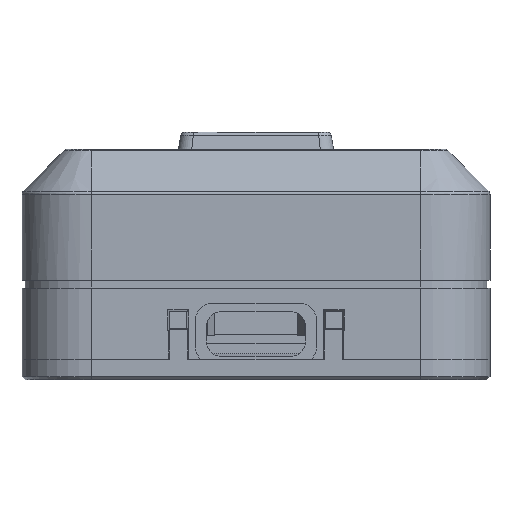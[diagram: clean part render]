
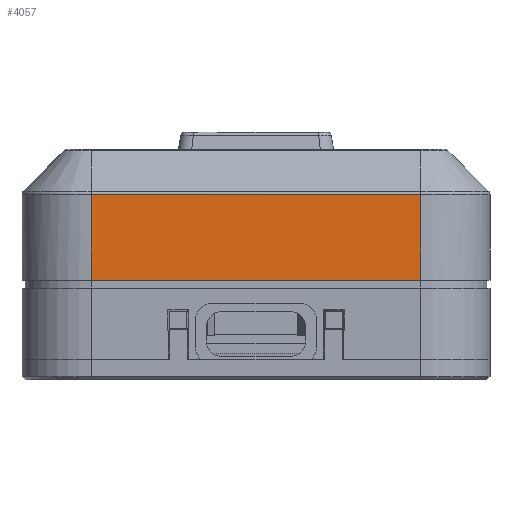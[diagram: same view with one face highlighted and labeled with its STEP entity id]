
A CAD part, front view. The second image highlights one B-rep face of the part: STEP entity #4057.
In plain terms, the highlighted planar face has unit normal (0, -1, 0).
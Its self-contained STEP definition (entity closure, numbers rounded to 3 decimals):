
#2144 = CYLINDRICAL_SURFACE('',#2145,0.5);
#2145 = AXIS2_PLACEMENT_3D('',#2146,#2147,#2148);
#2146 = CARTESIAN_POINT('',(19.,-23.5,21.393));
#2147 = DIRECTION('',(-1.,-0.,-0.));
#2148 = DIRECTION('',(0.,-1.,0.));
#3002 = VERTEX_POINT('',#3003);
#3003 = CARTESIAN_POINT('',(19.,-24.,21.393));
#3044 = CYLINDRICAL_SURFACE('',#3045,8.);
#3045 = AXIS2_PLACEMENT_3D('',#3046,#3047,#3048);
#3046 = CARTESIAN_POINT('',(19.,-16.,2.4));
#3047 = DIRECTION('',(0.,0.,1.));
#3048 = DIRECTION('',(1.,0.,-0.));
#3123 = VERTEX_POINT('',#3124);
#3124 = CARTESIAN_POINT('',(-19.,-24.,21.393));
#3148 = EDGE_CURVE('',#3002,#3123,#3149,.T.);
#3149 = SURFACE_CURVE('',#3150,(#3154,#3161),.PCURVE_S1.);
#3150 = LINE('',#3151,#3152);
#3151 = CARTESIAN_POINT('',(19.,-24.,21.393));
#3152 = VECTOR('',#3153,1.);
#3153 = DIRECTION('',(-1.,-0.,-0.));
#3154 = PCURVE('',#2144,#3155);
#3155 = DEFINITIONAL_REPRESENTATION('',(#3156),#3160);
#3156 = LINE('',#3157,#3158);
#3157 = CARTESIAN_POINT('',(0.,0.));
#3158 = VECTOR('',#3159,1.);
#3159 = DIRECTION('',(0.,1.));
#3160 = ( GEOMETRIC_REPRESENTATION_CONTEXT(2) 
PARAMETRIC_REPRESENTATION_CONTEXT() REPRESENTATION_CONTEXT('2D SPACE',''
  ) );
#3161 = PCURVE('',#3162,#3167);
#3162 = PLANE('',#3163);
#3163 = AXIS2_PLACEMENT_3D('',#3164,#3165,#3166);
#3164 = CARTESIAN_POINT('',(-27.,-24.,2.4));
#3165 = DIRECTION('',(0.,1.,0.));
#3166 = DIRECTION('',(0.,0.,1.));
#3167 = DEFINITIONAL_REPRESENTATION('',(#3168),#3172);
#3168 = LINE('',#3169,#3170);
#3169 = CARTESIAN_POINT('',(18.993,46.));
#3170 = VECTOR('',#3171,1.);
#3171 = DIRECTION('',(0.,-1.));
#3172 = ( GEOMETRIC_REPRESENTATION_CONTEXT(2) 
PARAMETRIC_REPRESENTATION_CONTEXT() REPRESENTATION_CONTEXT('2D SPACE',''
  ) );
#3289 = CYLINDRICAL_SURFACE('',#3290,8.);
#3290 = AXIS2_PLACEMENT_3D('',#3291,#3292,#3293);
#3291 = CARTESIAN_POINT('',(-19.,-16.,2.4));
#3292 = DIRECTION('',(0.,0.,1.));
#3293 = DIRECTION('',(-1.,-0.,0.));
#3961 = VERTEX_POINT('',#3962);
#3962 = CARTESIAN_POINT('',(19.,-24.,11.5));
#3977 = PLANE('',#3978);
#3978 = AXIS2_PLACEMENT_3D('',#3979,#3980,#3981);
#3979 = CARTESIAN_POINT('',(-27.5,-24.5,11.5));
#3980 = DIRECTION('',(0.,0.,1.));
#3981 = DIRECTION('',(1.,0.,0.));
#3989 = EDGE_CURVE('',#3961,#3002,#3990,.T.);
#3990 = SURFACE_CURVE('',#3991,(#3995,#4002),.PCURVE_S1.);
#3991 = LINE('',#3992,#3993);
#3992 = CARTESIAN_POINT('',(19.,-24.,2.4));
#3993 = VECTOR('',#3994,1.);
#3994 = DIRECTION('',(0.,0.,1.));
#3995 = PCURVE('',#3044,#3996);
#3996 = DEFINITIONAL_REPRESENTATION('',(#3997),#4001);
#3997 = LINE('',#3998,#3999);
#3998 = CARTESIAN_POINT('',(-1.571,0.));
#3999 = VECTOR('',#4000,1.);
#4000 = DIRECTION('',(-0.,1.));
#4001 = ( GEOMETRIC_REPRESENTATION_CONTEXT(2) 
PARAMETRIC_REPRESENTATION_CONTEXT() REPRESENTATION_CONTEXT('2D SPACE',''
  ) );
#4002 = PCURVE('',#3162,#4003);
#4003 = DEFINITIONAL_REPRESENTATION('',(#4004),#4008);
#4004 = LINE('',#4005,#4006);
#4005 = CARTESIAN_POINT('',(0.,46.));
#4006 = VECTOR('',#4007,1.);
#4007 = DIRECTION('',(1.,0.));
#4008 = ( GEOMETRIC_REPRESENTATION_CONTEXT(2) 
PARAMETRIC_REPRESENTATION_CONTEXT() REPRESENTATION_CONTEXT('2D SPACE',''
  ) );
#4057 = ADVANCED_FACE('',(#4058),#3162,.F.);
#4058 = FACE_BOUND('',#4059,.F.);
#4059 = EDGE_LOOP('',(#4060,#4081,#4102,#4103));
#4060 = ORIENTED_EDGE('',*,*,#4061,.F.);
#4061 = EDGE_CURVE('',#4062,#3961,#4064,.T.);
#4062 = VERTEX_POINT('',#4063);
#4063 = CARTESIAN_POINT('',(-19.,-24.,11.5));
#4064 = SURFACE_CURVE('',#4065,(#4069,#4075),.PCURVE_S1.);
#4065 = LINE('',#4066,#4067);
#4066 = CARTESIAN_POINT('',(-27.25,-24.,11.5));
#4067 = VECTOR('',#4068,1.);
#4068 = DIRECTION('',(1.,0.,0.));
#4069 = PCURVE('',#3162,#4070);
#4070 = DEFINITIONAL_REPRESENTATION('',(#4071),#4074);
#4071 = B_SPLINE_CURVE_WITH_KNOTS('',1,(#4072,#4073),.UNSPECIFIED.,.F.,
  .F.,(2,2),(8.25,46.25),.PIECEWISE_BEZIER_KNOTS.);
#4072 = CARTESIAN_POINT('',(9.1,8.));
#4073 = CARTESIAN_POINT('',(9.1,46.));
#4074 = ( GEOMETRIC_REPRESENTATION_CONTEXT(2) 
PARAMETRIC_REPRESENTATION_CONTEXT() REPRESENTATION_CONTEXT('2D SPACE',''
  ) );
#4075 = PCURVE('',#3977,#4076);
#4076 = DEFINITIONAL_REPRESENTATION('',(#4077),#4080);
#4077 = B_SPLINE_CURVE_WITH_KNOTS('',1,(#4078,#4079),.UNSPECIFIED.,.F.,
  .F.,(2,2),(8.25,46.25),.PIECEWISE_BEZIER_KNOTS.);
#4078 = CARTESIAN_POINT('',(8.5,0.5));
#4079 = CARTESIAN_POINT('',(46.5,0.5));
#4080 = ( GEOMETRIC_REPRESENTATION_CONTEXT(2) 
PARAMETRIC_REPRESENTATION_CONTEXT() REPRESENTATION_CONTEXT('2D SPACE',''
  ) );
#4081 = ORIENTED_EDGE('',*,*,#4082,.T.);
#4082 = EDGE_CURVE('',#4062,#3123,#4083,.T.);
#4083 = SURFACE_CURVE('',#4084,(#4088,#4095),.PCURVE_S1.);
#4084 = LINE('',#4085,#4086);
#4085 = CARTESIAN_POINT('',(-19.,-24.,2.4));
#4086 = VECTOR('',#4087,1.);
#4087 = DIRECTION('',(0.,0.,1.));
#4088 = PCURVE('',#3162,#4089);
#4089 = DEFINITIONAL_REPRESENTATION('',(#4090),#4094);
#4090 = LINE('',#4091,#4092);
#4091 = CARTESIAN_POINT('',(0.,8.));
#4092 = VECTOR('',#4093,1.);
#4093 = DIRECTION('',(1.,0.));
#4094 = ( GEOMETRIC_REPRESENTATION_CONTEXT(2) 
PARAMETRIC_REPRESENTATION_CONTEXT() REPRESENTATION_CONTEXT('2D SPACE',''
  ) );
#4095 = PCURVE('',#3289,#4096);
#4096 = DEFINITIONAL_REPRESENTATION('',(#4097),#4101);
#4097 = LINE('',#4098,#4099);
#4098 = CARTESIAN_POINT('',(1.571,0.));
#4099 = VECTOR('',#4100,1.);
#4100 = DIRECTION('',(0.,1.));
#4101 = ( GEOMETRIC_REPRESENTATION_CONTEXT(2) 
PARAMETRIC_REPRESENTATION_CONTEXT() REPRESENTATION_CONTEXT('2D SPACE',''
  ) );
#4102 = ORIENTED_EDGE('',*,*,#3148,.F.);
#4103 = ORIENTED_EDGE('',*,*,#3989,.F.);
